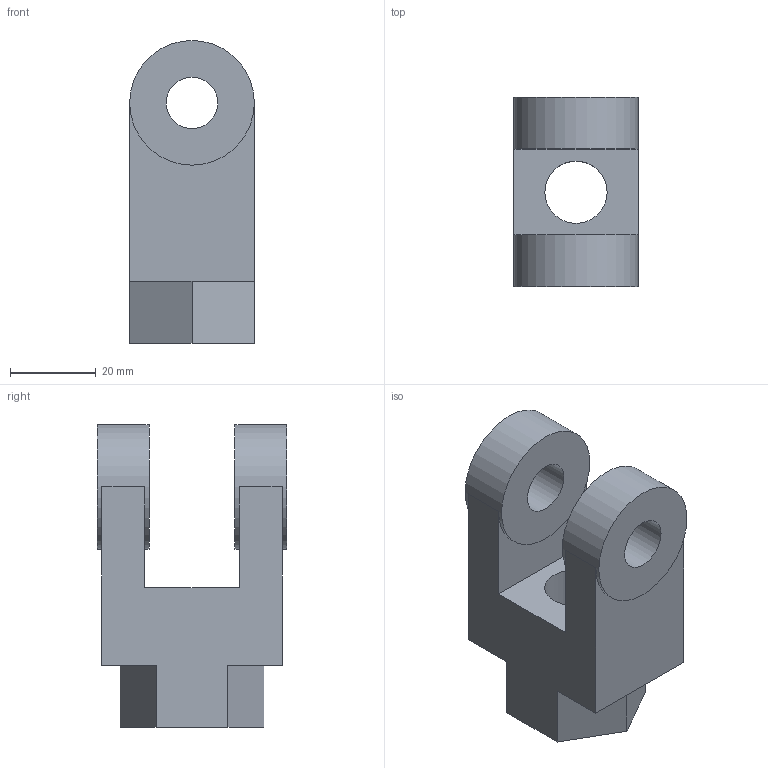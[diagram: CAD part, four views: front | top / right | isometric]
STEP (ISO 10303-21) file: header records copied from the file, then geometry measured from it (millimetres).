
FILE_DESCRIPTION(/* description */ ('Unknown'),/* implementation_level */ '2;1');
FILE_NAME(/* name */ 'WA50_WA63_Y',/* time_stamp */ '2026-07-17T17:01:58+08:00',/* author */ ('Unknown'),/* organization */ ('Unknown'),/* preprocessor_version */ 'ST-DEVELOPER v16.7',/* originating_system */ 'DEX',/* authorisation */ $);
FILE_SCHEMA (('CONFIG_CONTROL_DESIGN'));
Length unit declared in the file: millimetre
Products named in the file (1): WA50_WA63_Y
Bounding box: 29 x 44 x 70.5 mm (x, y, z)
Volume: 47281 mm3; surface area: 13733.8 mm2
Topology: 1 solids, 1 shells, 23 faces, 66 edges, 45 vertices
Faces by surface type: plane 18, cylinder 5
Full cylindrical faces by diameter (mm): 12 x2, 14.5 x1, 29 x2
Entity records: 857 total; most frequent: DIRECTION 114, CARTESIAN_POINT 114, ORIENTED_EDGE 104, EDGE_CURVE 52, VERTEX_POINT 38, LINE 38, VECTOR 38, AXIS2_PLACEMENT_3D 38
